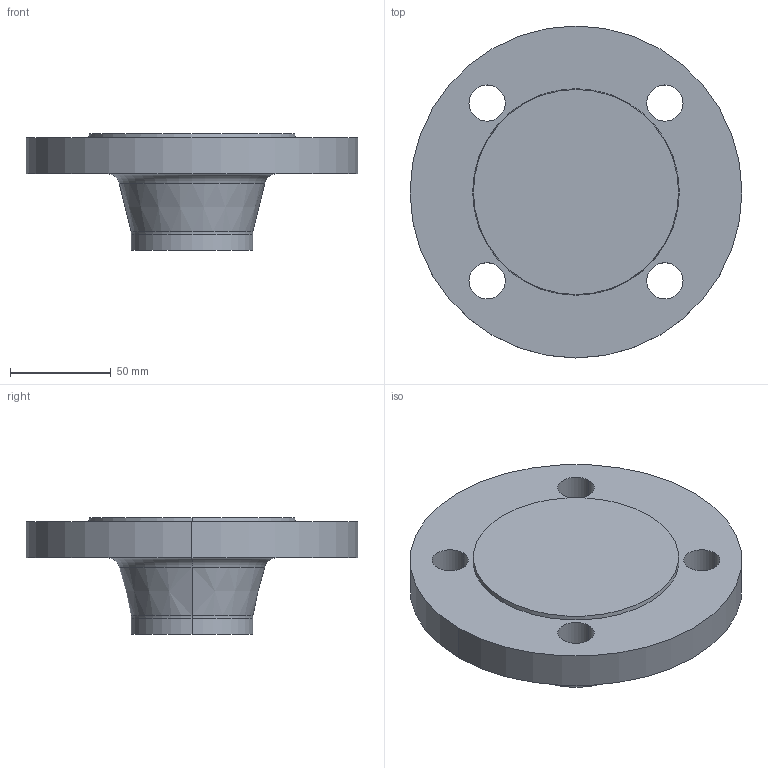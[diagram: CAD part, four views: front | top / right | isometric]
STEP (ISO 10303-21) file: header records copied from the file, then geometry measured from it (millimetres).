
FILE_DESCRIPTION (( 'STEP AP214' ), '1' );
FILE_NAME ('PN40 DN50 Type 21(ii) - Type B Face.STEP', '2018-12-30T03:22:31', ( '' ), ( '' ), 'SwSTEP 2.0', 'SolidWorks 2019', '' );
FILE_SCHEMA (( 'AUTOMOTIVE_DESIGN' ));
Length unit declared in the file: millimetre
Products named in the file (1): PN40 DN50 Type 21(ii) - Type B Face
Bounding box: 165 x 165 x 58 mm (x, y, z)
Volume: 513926.7 mm3; surface area: 60868.7 mm2
Topology: 1 solids, 1 shells, 24 faces, 54 edges, 34 vertices
Faces by surface type: cylinder 12, torus 4, cone 4, plane 4
Entity records: 738 total; most frequent: DIRECTION 142, CARTESIAN_POINT 113, ORIENTED_EDGE 108, AXIS2_PLACEMENT_3D 63, EDGE_CURVE 54, CIRCLE 38, VERTEX_POINT 34, EDGE_LOOP 34
